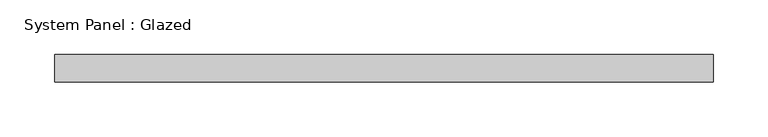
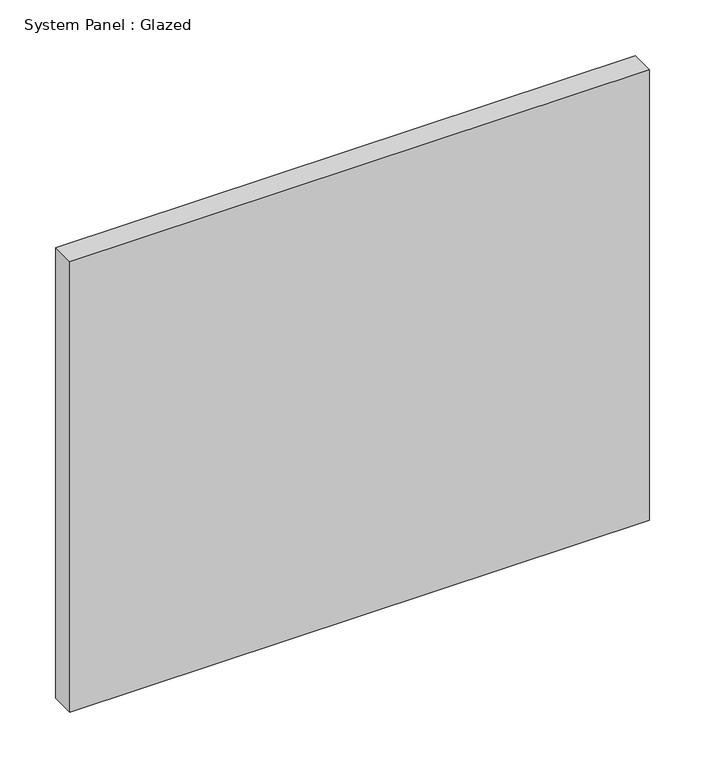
"""IFC4 building model written with IfcOpenShell, lengths in millimetres: plate geometry, System Panel : Glazed."""

from ifc_helpers import new_model, si_unit, origin, origin_with_axes, place, context, project, spatial, polyline, outline, extrude, source, transform, mapped, element, save


def system_panel_glazed_27d6f0f3(model_context):
    return source(origin(), model_context, "Body", "SweptSolid", [
        extrude(outline(polyline([(301.3712454, -12.7), (-301.3712454, -12.7), (-301.3712454, 12.7), (301.3712454, 12.7), (301.3712454, -12.7)])), origin_with_axes(), (0.0, 0.0, 1.0), 495.3),
    ])


if __name__ == "__main__":
    model = new_model("IFC4")
    model_context = context("Model", 3, world=origin())
    ifc_project = project(units=[si_unit("LENGTHUNIT", "METRE", prefix="MILLI")], contexts=[model_context])
    site = spatial("IfcSite", under=ifc_project)
    building = spatial("IfcBuilding", under=site)
    placement = place(None, origin())
    system_panel_glazed_shape = system_panel_glazed_27d6f0f3(model_context)
    element("IfcPlate", 1, ObjectType="System Panel : Glazed", at=placement, inside=building, context=model_context, shape_type="MappedRepresentation", body=[
        mapped(system_panel_glazed_shape, transform((0.0, 0.0, 0.0), x_axis=(1.0, 0.0, 0.0), y_axis=(0.0, 1.0, 0.0), z_axis=(0.0, 0.0, 1.0))),
    ])
    save(model, "model.ifc")
